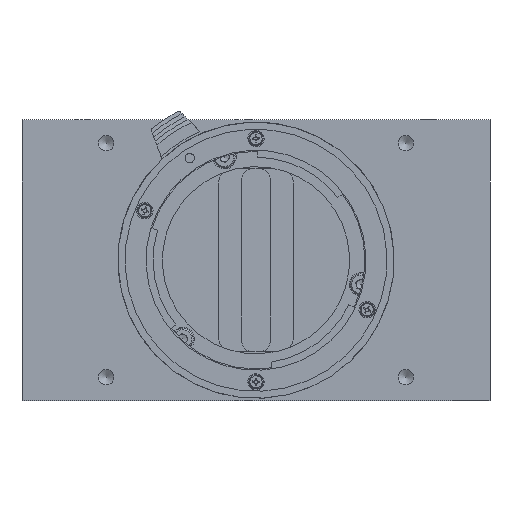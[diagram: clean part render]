
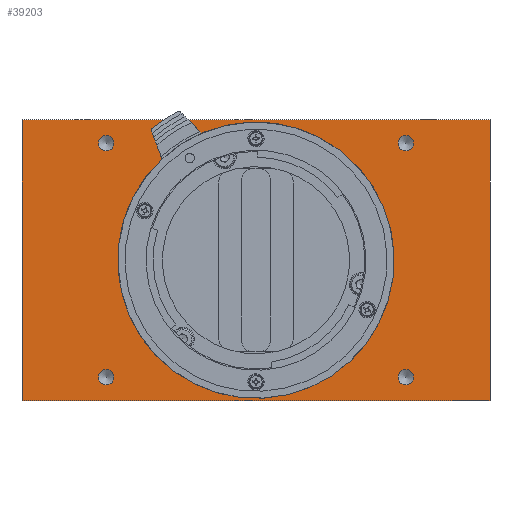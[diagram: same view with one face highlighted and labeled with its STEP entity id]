
A CAD part, left-side view. The second image highlights one B-rep face of the part: STEP entity #39203.
In plain terms, the highlighted planar face has unit normal (-1, 0, 0).
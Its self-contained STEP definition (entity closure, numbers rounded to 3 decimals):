
#5191 = DIRECTION ( 'NONE',  ( 0., 0., -1. ) ) ;
#5413 = CARTESIAN_POINT ( 'NONE',  ( 0., 50., -30. ) ) ;
#7489 = VERTEX_POINT ( 'NONE', #152709 ) ;
#10275 = AXIS2_PLACEMENT_3D ( 'NONE', #55912, #142865, #5191 ) ;
#12292 = DIRECTION ( 'NONE',  ( -1., 0., 0. ) ) ;
#15473 = EDGE_CURVE ( 'NONE', #110729, #110729, #155547, .T. ) ;
#15567 = CARTESIAN_POINT ( 'NONE',  ( 0., -32., -23.35 ) ) ;
#15912 = DIRECTION ( 'NONE',  ( -1., 0., 0. ) ) ;
#17165 = EDGE_CURVE ( 'NONE', #7489, #7489, #137236, .T. ) ;
#18002 = CARTESIAN_POINT ( 'NONE',  ( 0., 0., 0. ) ) ;
#18619 = ORIENTED_EDGE ( 'NONE', *, *, #17165, .F. ) ;
#20163 = VERTEX_POINT ( 'NONE', #103197 ) ;
#20709 = ORIENTED_EDGE ( 'NONE', *, *, #132764, .F. ) ;
#22572 = FACE_BOUND ( 'NONE', #123838, .T. ) ;
#24030 = ORIENTED_EDGE ( 'NONE', *, *, #138806, .F. ) ;
#26538 = ORIENTED_EDGE ( 'NONE', *, *, #75586, .F. ) ;
#29439 = DIRECTION ( 'NONE',  ( 0., 1., 0. ) ) ;
#30960 = CARTESIAN_POINT ( 'NONE',  ( 0., -32., 25. ) ) ;
#32267 = DIRECTION ( 'NONE',  ( -1., 0., 0. ) ) ;
#33094 = VECTOR ( 'NONE', #142393, 1000. ) ;
#36628 = VERTEX_POINT ( 'NONE', #136831 ) ;
#37540 = CARTESIAN_POINT ( 'NONE',  ( 0., 50., 30. ) ) ;
#38378 = CARTESIAN_POINT ( 'NONE',  ( 0., 50., -30. ) ) ;
#39203 = ADVANCED_FACE ( 'NONE', ( #22572, #49965, #133632, #44028, #110219, #151065 ), #118948, .F. ) ;
#39928 = EDGE_CURVE ( 'NONE', #149633, #149633, #78874, .T. ) ;
#44028 = FACE_BOUND ( 'NONE', #61787, .T. ) ;
#45897 = AXIS2_PLACEMENT_3D ( 'NONE', #139480, #15912, #102021 ) ;
#47771 = CIRCLE ( 'NONE', #67590, 1.65 ) ;
#48629 = AXIS2_PLACEMENT_3D ( 'NONE', #18002, #32267, #118736 ) ;
#48887 = EDGE_LOOP ( 'NONE', ( #92680, #158981, #20709, #119286 ) ) ;
#49965 = FACE_BOUND ( 'NONE', #147405, .T. ) ;
#50454 = CIRCLE ( 'NONE', #121379, 1.65 ) ;
#50581 = LINE ( 'NONE', #129943, #33094 ) ;
#50784 = LINE ( 'NONE', #96167, #134438 ) ;
#51452 = EDGE_LOOP ( 'NONE', ( #108038 ) ) ;
#55912 = CARTESIAN_POINT ( 'NONE',  ( 0., 0., 0. ) ) ;
#56364 = VERTEX_POINT ( 'NONE', #92387 ) ;
#61787 = EDGE_LOOP ( 'NONE', ( #24030 ) ) ;
#64169 = EDGE_CURVE ( 'NONE', #110665, #20163, #50784, .T. ) ;
#64775 = DIRECTION ( 'NONE',  ( 0., -1., 0. ) ) ;
#66842 = CARTESIAN_POINT ( 'NONE',  ( 0., 32., 26.65 ) ) ;
#67416 = DIRECTION ( 'NONE',  ( 0., 0., 1. ) ) ;
#67590 = AXIS2_PLACEMENT_3D ( 'NONE', #30960, #105529, #67416 ) ;
#70592 = VERTEX_POINT ( 'NONE', #38378 ) ;
#73427 = ORIENTED_EDGE ( 'NONE', *, *, #39928, .F. ) ;
#74393 = AXIS2_PLACEMENT_3D ( 'NONE', #141180, #79253, #105358 ) ;
#75586 = EDGE_CURVE ( 'NONE', #56364, #56364, #47771, .T. ) ;
#78874 = CIRCLE ( 'NONE', #45897, 1.65 ) ;
#79253 = DIRECTION ( 'NONE',  ( -1., 0., 0. ) ) ;
#90983 = VERTEX_POINT ( 'NONE', #105715 ) ;
#92242 = VECTOR ( 'NONE', #29439, 1000. ) ;
#92387 = CARTESIAN_POINT ( 'NONE',  ( 0., -32., 26.65 ) ) ;
#92680 = ORIENTED_EDGE ( 'NONE', *, *, #130763, .F. ) ;
#96167 = CARTESIAN_POINT ( 'NONE',  ( 0., -50., 30. ) ) ;
#101309 = LINE ( 'NONE', #37540, #140081 ) ;
#102021 = DIRECTION ( 'NONE',  ( 0., 0., 1. ) ) ;
#102988 = EDGE_CURVE ( 'NONE', #70592, #90983, #50581, .T. ) ;
#103197 = CARTESIAN_POINT ( 'NONE',  ( 0., -50., -30. ) ) ;
#105358 = DIRECTION ( 'NONE',  ( 0., 0., 1. ) ) ;
#105529 = DIRECTION ( 'NONE',  ( -1., 0., 0. ) ) ;
#105715 = CARTESIAN_POINT ( 'NONE',  ( 0., 50., 30. ) ) ;
#108038 = ORIENTED_EDGE ( 'NONE', *, *, #15473, .F. ) ;
#108158 = DIRECTION ( 'NONE',  ( 0., 0., -1. ) ) ;
#110219 = FACE_BOUND ( 'NONE', #119737, .T. ) ;
#110665 = VERTEX_POINT ( 'NONE', #146849 ) ;
#110729 = VERTEX_POINT ( 'NONE', #15567 ) ;
#111900 = DIRECTION ( 'NONE',  ( 0., 0., 1. ) ) ;
#118736 = DIRECTION ( 'NONE',  ( 0., 0., 1. ) ) ;
#118948 = PLANE ( 'NONE',  #10275 ) ;
#119286 = ORIENTED_EDGE ( 'NONE', *, *, #64169, .F. ) ;
#119737 = EDGE_LOOP ( 'NONE', ( #18619 ) ) ;
#121379 = AXIS2_PLACEMENT_3D ( 'NONE', #135846, #12292, #111900 ) ;
#123838 = EDGE_LOOP ( 'NONE', ( #26538 ) ) ;
#125297 = LINE ( 'NONE', #5413, #92242 ) ;
#129943 = CARTESIAN_POINT ( 'NONE',  ( 0., 50., 30. ) ) ;
#130763 = EDGE_CURVE ( 'NONE', #90983, #110665, #101309, .T. ) ;
#132764 = EDGE_CURVE ( 'NONE', #20163, #70592, #125297, .T. ) ;
#133632 = FACE_BOUND ( 'NONE', #51452, .T. ) ;
#134438 = VECTOR ( 'NONE', #108158, 1000. ) ;
#135846 = CARTESIAN_POINT ( 'NONE',  ( 0., 32., -25. ) ) ;
#136831 = CARTESIAN_POINT ( 'NONE',  ( 0., 32., -23.35 ) ) ;
#137236 = CIRCLE ( 'NONE', #48629, 27.8 ) ;
#138806 = EDGE_CURVE ( 'NONE', #36628, #36628, #50454, .T. ) ;
#139480 = CARTESIAN_POINT ( 'NONE',  ( 0., 32., 25. ) ) ;
#140081 = VECTOR ( 'NONE', #64775, 1000. ) ;
#141180 = CARTESIAN_POINT ( 'NONE',  ( 0., -32., -25. ) ) ;
#142393 = DIRECTION ( 'NONE',  ( 0., 0., 1. ) ) ;
#142865 = DIRECTION ( 'NONE',  ( 1., 0., 0. ) ) ;
#146849 = CARTESIAN_POINT ( 'NONE',  ( 0., -50., 30. ) ) ;
#147405 = EDGE_LOOP ( 'NONE', ( #73427 ) ) ;
#149633 = VERTEX_POINT ( 'NONE', #66842 ) ;
#151065 = FACE_OUTER_BOUND ( 'NONE', #48887, .T. ) ;
#152709 = CARTESIAN_POINT ( 'NONE',  ( 0., 0., 27.8 ) ) ;
#155547 = CIRCLE ( 'NONE', #74393, 1.65 ) ;
#158981 = ORIENTED_EDGE ( 'NONE', *, *, #102988, .F. ) ;
